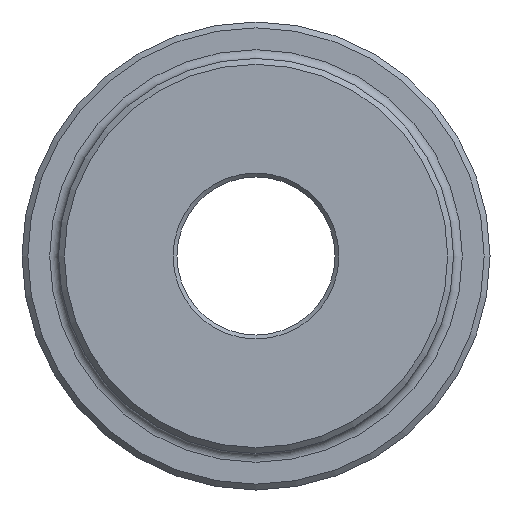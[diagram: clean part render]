
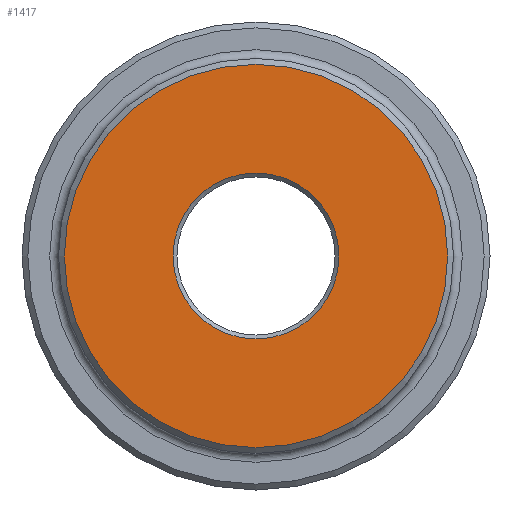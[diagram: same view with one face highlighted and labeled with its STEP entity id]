
A CAD part, left-side view. The second image highlights one B-rep face of the part: STEP entity #1417.
In plain terms, the highlighted planar face has unit normal (-1, 0, 0).
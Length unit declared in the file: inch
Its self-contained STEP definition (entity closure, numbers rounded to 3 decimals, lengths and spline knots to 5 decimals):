
#333 = EDGE_CURVE ( 'NONE', #992, #992, #2209, .T. ) ;
#388 = CARTESIAN_POINT ( 'NONE',  ( 0., 0., 0. ) ) ;
#494 = FACE_OUTER_BOUND ( 'NONE', #1792, .T. ) ;
#547 = CARTESIAN_POINT ( 'NONE',  ( 0., 0., -0.85275 ) ) ;
#808 = CARTESIAN_POINT ( 'NONE',  ( 0., 0., 0. ) ) ;
#941 = ORIENTED_EDGE ( 'NONE', *, *, #333, .T. ) ;
#992 = VERTEX_POINT ( 'NONE', #1347 ) ;
#1069 = DIRECTION ( 'NONE',  ( 0., 0., -1. ) ) ;
#1147 = ORIENTED_EDGE ( 'NONE', *, *, #1933, .T. ) ;
#1154 = FACE_BOUND ( 'NONE', #1986, .T. ) ;
#1169 = VERTEX_POINT ( 'NONE', #547 ) ;
#1313 = AXIS2_PLACEMENT_3D ( 'NONE', #2000, #1572, #2183 ) ;
#1347 = CARTESIAN_POINT ( 'NONE',  ( 0., 0., -1.97 ) ) ;
#1356 = DIRECTION ( 'NONE',  ( 1., 0., 0. ) ) ;
#1417 = ADVANCED_FACE ( 'NONE', ( #1154, #494 ), #1754, .F. ) ;
#1513 = AXIS2_PLACEMENT_3D ( 'NONE', #388, #2053, #1069 ) ;
#1572 = DIRECTION ( 'NONE',  ( -1., 0., 0. ) ) ;
#1609 = DIRECTION ( 'NONE',  ( 0., 0., -1. ) ) ;
#1696 = AXIS2_PLACEMENT_3D ( 'NONE', #808, #1356, #1609 ) ;
#1754 = PLANE ( 'NONE',  #1513 ) ;
#1792 = EDGE_LOOP ( 'NONE', ( #941 ) ) ;
#1933 = EDGE_CURVE ( 'NONE', #1169, #1169, #2145, .T. ) ;
#1986 = EDGE_LOOP ( 'NONE', ( #1147 ) ) ;
#2000 = CARTESIAN_POINT ( 'NONE',  ( 0., 0., 0. ) ) ;
#2053 = DIRECTION ( 'NONE',  ( 1., 0., 0. ) ) ;
#2145 = CIRCLE ( 'NONE', #1696, 0.85275 ) ;
#2183 = DIRECTION ( 'NONE',  ( 0., 0., -1. ) ) ;
#2209 = CIRCLE ( 'NONE', #1313, 1.97 ) ;
